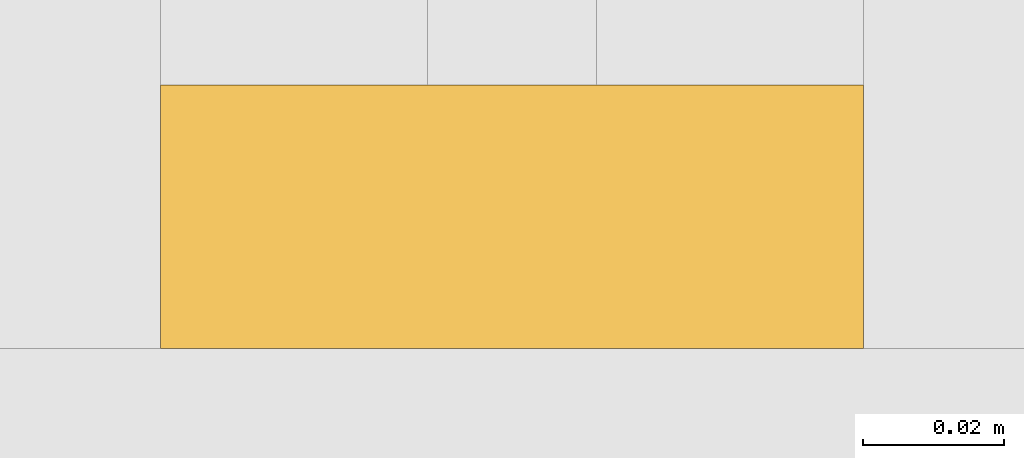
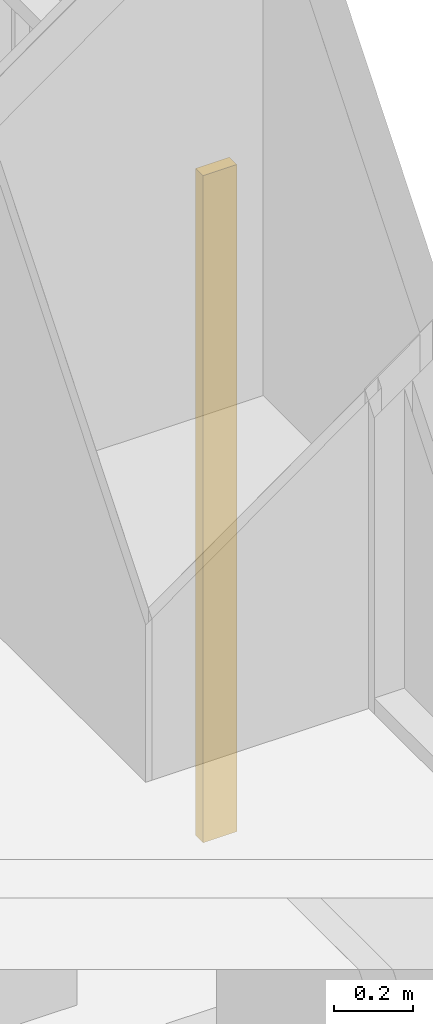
# One storey, part 82 of 100: 1 curtain wall, 1 opening, 1 element without a shape of its own.
"""IFC2X3 building model written with IfcOpenShell, lengths in millimetres."""

from ifc_helpers import new_model, entity, si_unit, converted_unit, derived_unit, direction, frame, frame_2d, origin, place, context, subcontext, project, spatial, rectangle, extrude, material, layer, layer_set, layer_usage, type_object, element, aggregate, save


model = new_model("IFC2X3")

# Units and contexts
model_context = context("Model", 3, precision=0.01, world=origin(), true_north=direction((6.123031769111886e-17, 1.0)))
body_context = subcontext(model_context, "Body", "Model", "MODEL_VIEW")
ifc_project = project(units=[si_unit("LENGTHUNIT", "METRE", prefix="MILLI"), si_unit("AREAUNIT", "SQUARE_METRE"), si_unit("VOLUMEUNIT", "CUBIC_METRE"), converted_unit("PLANEANGLEUNIT", "DEGREE", entity("IfcRatioMeasure", 0.017453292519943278), si_unit("PLANEANGLEUNIT", "RADIAN"), dimensions=[0, 0, 0, 0, 0, 0, 0]), si_unit("MASSUNIT", "GRAM", prefix="KILO"), derived_unit("MASSDENSITYUNIT", [(si_unit("MASSUNIT", "GRAM", prefix="KILO"), 1), (si_unit("LENGTHUNIT", "METRE"), -3)]), derived_unit("MOMENTOFINERTIAUNIT", [(si_unit("LENGTHUNIT", "METRE"), 4)]), si_unit("TIMEUNIT", "SECOND"), si_unit("FREQUENCYUNIT", "HERTZ"), si_unit("THERMODYNAMICTEMPERATUREUNIT", "DEGREE_CELSIUS"), derived_unit("THERMALTRANSMITTANCEUNIT", [(si_unit("MASSUNIT", "GRAM", prefix="KILO"), 1), (si_unit("THERMODYNAMICTEMPERATUREUNIT", "KELVIN"), -1), (si_unit("TIMEUNIT", "SECOND"), -3)]), derived_unit("VOLUMETRICFLOWRATEUNIT", [(si_unit("LENGTHUNIT", "METRE"), 3), (si_unit("TIMEUNIT", "SECOND"), -1)]), derived_unit("MASSFLOWRATEUNIT", [(si_unit("MASSUNIT", "GRAM", prefix="KILO"), 1), (si_unit("TIMEUNIT", "SECOND"), -1)]), derived_unit("ROTATIONALFREQUENCYUNIT", [(si_unit("TIMEUNIT", "SECOND"), -1)]), si_unit("ELECTRICCURRENTUNIT", "AMPERE"), si_unit("ELECTRICVOLTAGEUNIT", "VOLT"), si_unit("POWERUNIT", "WATT"), si_unit("FORCEUNIT", "NEWTON", prefix="KILO"), si_unit("ILLUMINANCEUNIT", "LUX"), si_unit("LUMINOUSFLUXUNIT", "LUMEN"), si_unit("LUMINOUSINTENSITYUNIT", "CANDELA"), derived_unit("USERDEFINED", [(si_unit("MASSUNIT", "GRAM", prefix="KILO"), -1), (si_unit("LENGTHUNIT", "METRE"), -2), (si_unit("TIMEUNIT", "SECOND"), 3), (si_unit("LUMINOUSFLUXUNIT", "LUMEN"), 1)]), derived_unit("SOUNDPOWERUNIT", [(si_unit("MASSUNIT", "GRAM", prefix="KILO"), 1), (si_unit("LENGTHUNIT", "METRE"), 2), (si_unit("TIMEUNIT", "SECOND"), -3)]), derived_unit("SOUNDPRESSUREUNIT", [(si_unit("MASSUNIT", "GRAM", prefix="KILO"), 1), (si_unit("LENGTHUNIT", "METRE"), -1), (si_unit("TIMEUNIT", "SECOND"), -2)]), derived_unit("LINEARVELOCITYUNIT", [(si_unit("LENGTHUNIT", "METRE"), 1), (si_unit("TIMEUNIT", "SECOND"), -1)]), si_unit("PRESSUREUNIT", "PASCAL"), derived_unit("USERDEFINED", [(si_unit("LENGTHUNIT", "METRE"), -2), (si_unit("MASSUNIT", "GRAM", prefix="KILO"), 1), (si_unit("TIMEUNIT", "SECOND"), -2)]), derived_unit("LINEARFORCEUNIT", [(si_unit("MASSUNIT", "GRAM", prefix="KILO"), 1), (si_unit("LENGTHUNIT", "METRE"), 1), (si_unit("TIMEUNIT", "SECOND"), -2), (si_unit("LENGTHUNIT", "METRE"), -1)]), derived_unit("PLANARFORCEUNIT", [(si_unit("MASSUNIT", "GRAM", prefix="KILO"), 1), (si_unit("LENGTHUNIT", "METRE"), 1), (si_unit("TIMEUNIT", "SECOND"), -2), (si_unit("LENGTHUNIT", "METRE"), -2)])], contexts=[model_context])

# Site, building, storey
site_placement = place(None, frame((-14167.972527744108, -657.2125860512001, 0.0)))
site = spatial("IfcSite", under=ifc_project, at=site_placement, Name="Default", CompositionType="ELEMENT")
building_placement = place(site_placement, origin())
building = spatial("IfcBuilding", under=site, at=building_placement, Name="Sample Building", CompositionType="ELEMENT")
storey_placement = place(building_placement, origin())
storey = spatial("IfcBuildingStorey", under=building, at=storey_placement, Name="지상 1층", CompositionType="ELEMENT", Elevation=0.0)

# Curtain walls, opening
curtain_wall_type_1 = type_object("IfcCurtainWallType", Name="커튼월:CW112-스테인리스 스틸 커튼월", PredefinedType="NOTDEFINED")
curtain_wall_1_placement = place(storey_placement, origin())
curtain_wall_1 = element("IfcCurtainWall", 1, at=curtain_wall_1_placement, inside=storey, type_object=curtain_wall_type_1, Name="커튼월:CW112-스테인리스 스틸 커튼월", ObjectType="커튼월:CW112-스테인리스 스틸 커튼월")
ifc_material = material(Name="KBIMS-콘크리트")
ifc_layer = layer(ifc_material, 100.0)
ifc_layer_set = layer_set([ifc_layer], Name="커튼월:CW112-스테인리스 스틸 커튼월")
ifc_layer_usage = layer_usage(ifc_layer_set, "AXIS2", "NEGATIVE", 50.0)
curtain_wall_type_2 = type_object("IfcCurtainWallType", Name="기본 벽:WA111-철근콘크리트구조 벽 100mm", PredefinedType="NOTDEFINED", material=ifc_layer_set)
curtain_wall_2_placement = place(storey_placement, frame((51405.481214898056, 20507.212307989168, -1420.0), z_axis=(0.0, 0.0, 1.0), x_axis=(0.0, 1.0, 0.0)))
curtain_wall_2 = element("IfcCurtainWall", 2, at=curtain_wall_2_placement, type_object=curtain_wall_type_2, material=ifc_layer_usage, Name="기본 벽:WA111-철근콘크리트구조 벽 100mm", ObjectType="기본 벽:WA111-철근콘크리트구조 벽 100mm", context=body_context, shape_type="SweptSolid", body=[
    extrude(rectangle(XDim=37.46540435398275, YDim=100.00000000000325, at=frame_2d((2.1653789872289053e-12, -4.334310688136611e-12), x_axis=(1.0, 0.0))), frame((18.73270217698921, 0.0, 0.0)), (0.0, 0.0, 1.0), 2075.0000000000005),
])
opening_placement = place(curtain_wall_2_placement, frame((987.4654043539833, 50.0, 0.0)))
element("IfcOpeningElement", 3, at=opening_placement, cuts=curtain_wall_2, Name="DR111-외여닫이문(철재, 일반, 양개):DR111-외여닫이문(유리, 일반, 양개) 950x2100mm:1", ObjectType="Opening", context=body_context, shape_type="SweptSolid", body=[
    extrude(rectangle(XDim=2099.9999999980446, YDim=949.9999999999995, at=frame_2d((1049.9999999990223, 474.9999999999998), x_axis=(1.0, 0.0))), frame((0.0, 0.0, 0.0), z_axis=(0.0, -1.0, 0.0), x_axis=(0.0, 0.0, 1.0)), (0.0, 0.0, 1.0), 100.0),
])
aggregate(curtain_wall_1, [curtain_wall_2])

save(model, "model.ifc")
